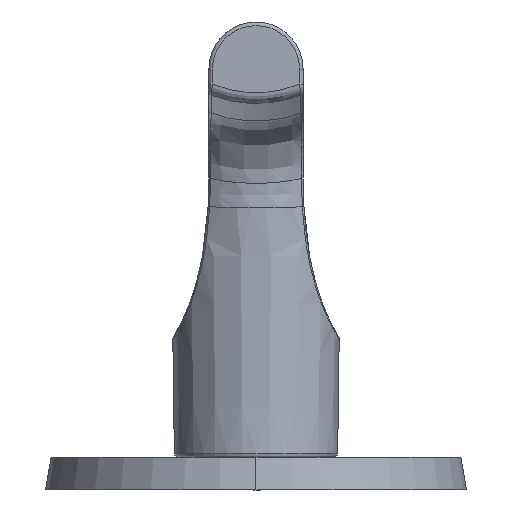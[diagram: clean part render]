
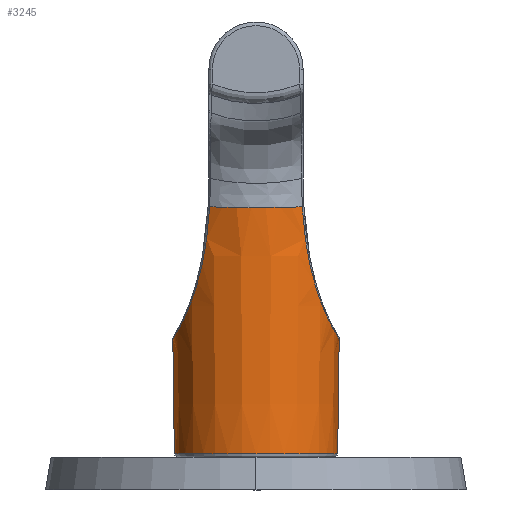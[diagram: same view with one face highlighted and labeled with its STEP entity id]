
A CAD part, left-side view. The second image highlights one B-rep face of the part: STEP entity #3245.
In plain terms, the highlighted conical face has half-angle 0.75 degrees and reference radius 11.479 mm.
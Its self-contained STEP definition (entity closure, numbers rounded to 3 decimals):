
#70=CARTESIAN_POINT('',(0.,0.,4.993));
#71=DIRECTION('',(0.,0.,1.));
#72=DIRECTION('',(0.,1.,0.));
#73=AXIS2_PLACEMENT_3D('',#70,#71,#72);
#75=CARTESIAN_POINT('',(0.,11.464,20.855));
#76=CARTESIAN_POINT('',(-0.104,11.464,20.855));
#77=CARTESIAN_POINT('',(-0.313,11.461,20.859));
#78=CARTESIAN_POINT('',(-0.626,11.449,20.879));
#79=CARTESIAN_POINT('',(-0.939,11.428,20.912));
#80=CARTESIAN_POINT('',(-1.252,11.398,20.958));
#81=CARTESIAN_POINT('',(-1.563,11.361,21.017));
#82=CARTESIAN_POINT('',(-1.873,11.315,21.091));
#83=CARTESIAN_POINT('',(-2.182,11.26,21.178));
#84=CARTESIAN_POINT('',(-2.49,11.198,21.28));
#85=CARTESIAN_POINT('',(-2.796,11.127,21.396));
#86=CARTESIAN_POINT('',(-3.1,11.048,21.528));
#87=CARTESIAN_POINT('',(-3.402,10.96,21.675));
#88=CARTESIAN_POINT('',(-3.702,10.865,21.838));
#89=CARTESIAN_POINT('',(-3.999,10.762,22.019));
#90=CARTESIAN_POINT('',(-4.294,10.65,22.217));
#91=CARTESIAN_POINT('',(-4.586,10.531,22.434));
#92=CARTESIAN_POINT('',(-4.875,10.404,22.671));
#93=CARTESIAN_POINT('',(-5.161,10.269,22.929));
#94=CARTESIAN_POINT('',(-5.443,10.126,23.209));
#95=CARTESIAN_POINT('',(-5.722,9.976,23.512));
#96=CARTESIAN_POINT('',(-5.996,9.818,23.842));
#97=CARTESIAN_POINT('',(-6.267,9.654,24.198));
#98=CARTESIAN_POINT('',(-6.533,9.482,24.584));
#99=CARTESIAN_POINT('',(-6.794,9.303,25.002));
#100=CARTESIAN_POINT('',(-7.049,9.119,25.454));
#101=CARTESIAN_POINT('',(-7.3,8.928,25.943));
#102=CARTESIAN_POINT('',(-7.543,8.732,26.472));
#103=CARTESIAN_POINT('',(-7.78,8.531,27.045));
#104=CARTESIAN_POINT('',(-8.01,8.327,27.666));
#105=CARTESIAN_POINT('',(-8.232,8.121,28.338));
#106=CARTESIAN_POINT('',(-8.444,7.913,29.066));
#107=CARTESIAN_POINT('',(-8.648,7.706,29.855));
#108=CARTESIAN_POINT('',(-8.84,7.501,30.71));
#109=CARTESIAN_POINT('',(-9.022,7.301,31.637));
#110=CARTESIAN_POINT('',(-9.191,7.109,32.639));
#111=CARTESIAN_POINT('',(-9.347,6.926,33.724));
#112=CARTESIAN_POINT('',(-9.488,6.758,34.897));
#113=CARTESIAN_POINT('',(-9.613,6.607,36.16));
#114=CARTESIAN_POINT('',(-9.723,6.477,37.524));
#115=CARTESIAN_POINT('',(-9.784,6.408,38.514));
#116=CARTESIAN_POINT('',(-9.811,6.378,39.028));
#118=CARTESIAN_POINT('',(-9.811,6.378,39.028));
#119=CARTESIAN_POINT('',(-10.08,5.964,39.014));
#120=CARTESIAN_POINT('',(-10.61,5.023,38.985));
#121=CARTESIAN_POINT('',(-11.22,3.471,38.951));
#122=CARTESIAN_POINT('',(-11.613,1.755,38.93));
#123=CARTESIAN_POINT('',(-11.744,0.,
38.923));
#124=CARTESIAN_POINT('',(-11.613,-1.755,38.93));
#125=CARTESIAN_POINT('',(-11.22,-3.471,38.951));
#126=CARTESIAN_POINT('',(-10.61,-5.023,38.985));
#127=CARTESIAN_POINT('',(-10.08,-5.964,39.014));
#128=CARTESIAN_POINT('',(-9.811,-6.378,39.028));
#130=DIRECTION('',(0.,0.013,1.));
#131=VECTOR('',#130,15.863);
#132=CARTESIAN_POINT('',(0.,11.256,4.993));
#133=LINE('',#132,#131);
#202=DIRECTION('',(0.,-0.013,1.));
#203=VECTOR('',#202,15.863);
#204=CARTESIAN_POINT('',(0.,-11.256,4.993));
#205=LINE('',#204,#203);
#271=CARTESIAN_POINT('',(0.,-11.464,
20.855));
#272=CARTESIAN_POINT('',(-0.104,-11.464,
20.855));
#273=CARTESIAN_POINT('',(-0.313,-11.461,
20.859));
#274=CARTESIAN_POINT('',(-0.626,-11.449,
20.879));
#275=CARTESIAN_POINT('',(-0.939,-11.428,
20.912));
#276=CARTESIAN_POINT('',(-1.252,-11.398,20.958));
#277=CARTESIAN_POINT('',(-1.563,-11.361,21.017));
#278=CARTESIAN_POINT('',(-1.874,-11.315,21.091));
#279=CARTESIAN_POINT('',(-2.183,-11.26,21.178));
#280=CARTESIAN_POINT('',(-2.491,-11.197,21.28));
#281=CARTESIAN_POINT('',(-2.797,-11.127,21.396));
#282=CARTESIAN_POINT('',(-3.101,-11.047,21.528));
#283=CARTESIAN_POINT('',(-3.403,-10.96,21.675));
#284=CARTESIAN_POINT('',(-3.703,-10.865,21.839));
#285=CARTESIAN_POINT('',(-4.,-10.761,22.019));
#286=CARTESIAN_POINT('',(-4.295,-10.65,22.218));
#287=CARTESIAN_POINT('',(-4.587,-10.531,22.435));
#288=CARTESIAN_POINT('',(-4.876,-10.403,22.672));
#289=CARTESIAN_POINT('',(-5.162,-10.268,22.93));
#290=CARTESIAN_POINT('',(-5.444,-10.126,23.21));
#291=CARTESIAN_POINT('',(-5.723,-9.975,23.514));
#292=CARTESIAN_POINT('',(-5.998,-9.818,23.843));
#293=CARTESIAN_POINT('',(-6.268,-9.653,24.2));
#294=CARTESIAN_POINT('',(-6.534,-9.481,24.587));
#295=CARTESIAN_POINT('',(-6.795,-9.302,25.004));
#296=CARTESIAN_POINT('',(-7.051,-9.117,25.457));
#297=CARTESIAN_POINT('',(-7.301,-8.927,25.946));
#298=CARTESIAN_POINT('',(-7.545,-8.731,26.476));
#299=CARTESIAN_POINT('',(-7.782,-8.53,27.049));
#300=CARTESIAN_POINT('',(-8.012,-8.326,27.671));
#301=CARTESIAN_POINT('',(-8.233,-8.119,28.344));
#302=CARTESIAN_POINT('',(-8.446,-7.912,29.073));
#303=CARTESIAN_POINT('',(-8.649,-7.704,29.862));
#304=CARTESIAN_POINT('',(-8.842,-7.5,30.719));
#305=CARTESIAN_POINT('',(-9.024,-7.299,31.646));
#306=CARTESIAN_POINT('',(-9.193,-7.107,32.65));
#307=CARTESIAN_POINT('',(-9.348,-6.925,33.736));
#308=CARTESIAN_POINT('',(-9.489,-6.756,34.91));
#309=CARTESIAN_POINT('',(-9.615,-6.605,36.176));
#310=CARTESIAN_POINT('',(-9.724,-6.476,37.54));
#311=CARTESIAN_POINT('',(-9.784,-6.407,38.521));
#312=CARTESIAN_POINT('',(-9.811,-6.378,39.028));
#2925=CARTESIAN_POINT('',(0.,-11.256,4.993));
#2926=VERTEX_POINT('',#2925);
#2927=CARTESIAN_POINT('',(0.,11.256,4.993));
#2928=VERTEX_POINT('',#2927);
#2929=VERTEX_POINT('',#75);
#2930=VERTEX_POINT('',#116);
#2931=VERTEX_POINT('',#128);
#2932=VERTEX_POINT('',#271);
#3227=CARTESIAN_POINT('',(0.,0.,22.011));
#3228=DIRECTION('',(0.,0.,1.));
#3229=DIRECTION('',(0.,-1.,0.));
#3230=AXIS2_PLACEMENT_3D('',#3227,#3228,#3229);
#3231=CONICAL_SURFACE('',#3230,11.479,0.75);
#3233=ORIENTED_EDGE('',*,*,#3232,.T.);
#3235=ORIENTED_EDGE('',*,*,#3234,.T.);
#3237=ORIENTED_EDGE('',*,*,#3236,.F.);
#3239=ORIENTED_EDGE('',*,*,#3238,.F.);
#3240=ORIENTED_EDGE('',*,*,#3213,.F.);
#3242=ORIENTED_EDGE('',*,*,#3241,.T.);
#3243=EDGE_LOOP('',(#3233,#3235,#3237,#3239,#3240,#3242));
#3244=FACE_OUTER_BOUND('',#3243,.F.);
#74=CIRCLE('',#73,11.256);
#117=B_SPLINE_CURVE_WITH_KNOTS('',3,(#75,#76,#77,#78,#79,#80,#81,#82,#83,#84,
#85,#86,#87,#88,#89,#90,#91,#92,#93,#94,#95,#96,#97,#98,#99,#100,#101,#102,#103,
#104,#105,#106,#107,#108,#109,#110,#111,#112,#113,#114,#115,#116),.UNSPECIFIED.,
.F.,.F.,(4,1,1,1,1,1,1,1,1,1,1,1,1,1,1,1,1,1,1,1,1,1,1,1,1,1,1,1,1,1,1,1,1,1,1,
1,1,1,1,4),(0.,0.026,0.051,0.077,
0.103,0.128,0.154,0.179,
0.205,0.231,0.256,0.282,
0.308,0.333,0.359,0.385,
0.41,0.436,0.462,0.487,
0.513,0.538,0.564,0.59,
0.615,0.641,0.667,0.692,
0.718,0.744,0.769,0.795,
0.821,0.846,0.872,0.897,
0.923,0.949,0.974,1.),.UNSPECIFIED.);
#129=B_SPLINE_CURVE_WITH_KNOTS('',3,(#118,#119,#120,#121,#122,#123,#124,#125,
#126,#127,#128),.UNSPECIFIED.,.F.,.F.,(4,1,1,1,1,1,1,1,4),(0.,
0.11,0.24,0.37,0.5,
0.63,0.76,0.89,1.),.UNSPECIFIED.);
#313=B_SPLINE_CURVE_WITH_KNOTS('',3,(#271,#272,#273,#274,#275,#276,#277,#278,
#279,#280,#281,#282,#283,#284,#285,#286,#287,#288,#289,#290,#291,#292,#293,#294,
#295,#296,#297,#298,#299,#300,#301,#302,#303,#304,#305,#306,#307,#308,#309,#310,
#311,#312),.UNSPECIFIED.,.F.,.F.,(4,1,1,1,1,1,1,1,1,1,1,1,1,1,1,1,1,1,1,1,1,1,1,
1,1,1,1,1,1,1,1,1,1,1,1,1,1,1,1,4),(0.,0.026,0.051,
0.077,0.103,0.128,0.154,
0.179,0.205,0.231,0.256,
0.282,0.308,0.333,0.359,
0.385,0.41,0.436,0.462,
0.487,0.513,0.538,0.564,
0.59,0.615,0.641,0.667,
0.692,0.718,0.744,0.769,
0.795,0.821,0.846,0.872,
0.897,0.923,0.949,0.974,1.),
.UNSPECIFIED.);
#3213=EDGE_CURVE('',#2928,#2926,#74,.T.);
#3232=EDGE_CURVE('',#2929,#2930,#117,.T.);
#3234=EDGE_CURVE('',#2930,#2931,#129,.T.);
#3236=EDGE_CURVE('',#2932,#2931,#313,.T.);
#3238=EDGE_CURVE('',#2926,#2932,#205,.T.);
#3241=EDGE_CURVE('',#2928,#2929,#133,.T.);
#3245=ADVANCED_FACE('',(#3244),#3231,.T.);
